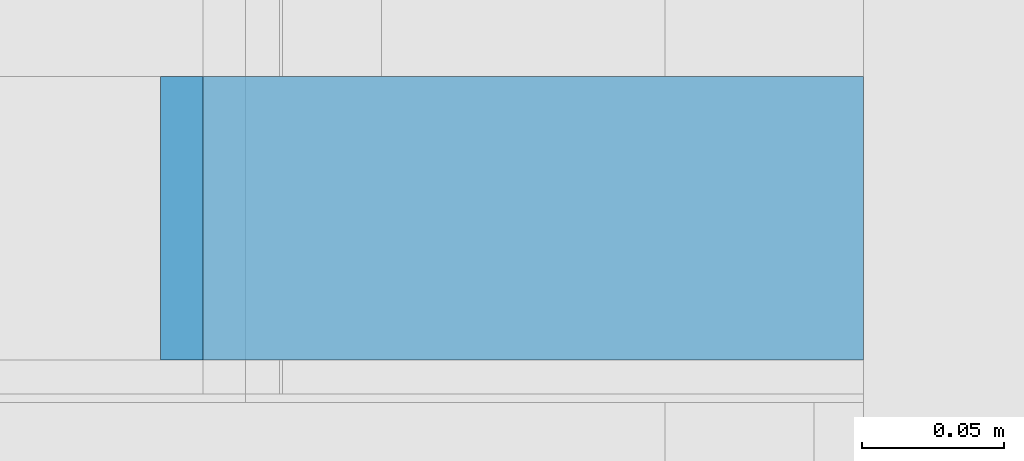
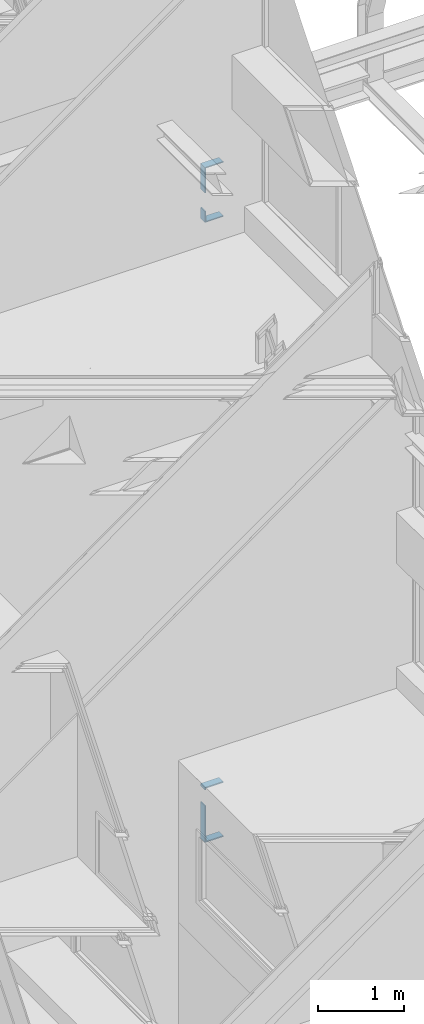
# One storey, part 236 of 583: 8 building element parts, 6 elements without a shape of their own.
"""IFC2X3 building model written with IfcOpenShell, lengths in metres."""

from ifc_helpers import new_model, entity, si_unit, converted_unit, derived_unit, money_unit, direction, frame, origin_with_axes, place, context, subcontext, project, spatial, polyline, outline, extrude, material, type_object, element, aggregate, save


model = new_model("IFC2X3")

# Units and contexts
model_context = context("Model", 3, precision=1e-05, world=origin_with_axes(), true_north=direction((0.0, 1.0)))
body_context = subcontext(model_context, "Body", "Model", "MODEL_VIEW", scale=1.0)
ifc_project = project(units=[si_unit("LENGTHUNIT", "METRE"), si_unit("AREAUNIT", "SQUARE_METRE"), si_unit("VOLUMEUNIT", "CUBIC_METRE"), si_unit("ABSORBEDDOSEUNIT", "GRAY"), si_unit("AMOUNTOFSUBSTANCEUNIT", "MOLE"), si_unit("DOSEEQUIVALENTUNIT", "SIEVERT"), si_unit("ELECTRICCAPACITANCEUNIT", "FARAD"), si_unit("ELECTRICCHARGEUNIT", "COULOMB"), si_unit("ELECTRICCONDUCTANCEUNIT", "SIEMENS"), si_unit("ELECTRICCURRENTUNIT", "AMPERE"), si_unit("ELECTRICRESISTANCEUNIT", "OHM"), si_unit("ELECTRICVOLTAGEUNIT", "VOLT"), si_unit("ENERGYUNIT", "JOULE"), si_unit("FORCEUNIT", "NEWTON"), si_unit("FREQUENCYUNIT", "HERTZ"), si_unit("ILLUMINANCEUNIT", "LUX"), si_unit("INDUCTANCEUNIT", "HENRY"), si_unit("LUMINOUSFLUXUNIT", "LUMEN"), si_unit("LUMINOUSINTENSITYUNIT", "CANDELA"), si_unit("MAGNETICFLUXDENSITYUNIT", "TESLA"), si_unit("MAGNETICFLUXUNIT", "WEBER"), si_unit("MASSUNIT", "GRAM"), converted_unit("PLANEANGLEUNIT", "degree", entity("IfcReal", 0.0174532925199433), si_unit("PLANEANGLEUNIT", "RADIAN"), dimensions=[0, 0, 0, 0, 0, 0, 0]), si_unit("POWERUNIT", "WATT"), si_unit("PRESSUREUNIT", "PASCAL"), si_unit("RADIOACTIVITYUNIT", "BECQUEREL"), si_unit("SOLIDANGLEUNIT", "STERADIAN"), si_unit("THERMODYNAMICTEMPERATUREUNIT", "KELVIN"), si_unit("TIMEUNIT", "SECOND"), derived_unit("ACCELERATIONUNIT", [(si_unit("LENGTHUNIT", "METRE"), 1), (si_unit("TIMEUNIT", "SECOND"), -2)]), derived_unit("ANGULARVELOCITYUNIT", [(converted_unit("PLANEANGLEUNIT", "degree", entity("IfcReal", 0.0174532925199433), si_unit("PLANEANGLEUNIT", "RADIAN"), dimensions=[0, 0, 0, 0, 0, 0, 0]), 1), (si_unit("TIMEUNIT", "SECOND"), -1)]), derived_unit("CURVATUREUNIT", [(converted_unit("PLANEANGLEUNIT", "degree", entity("IfcReal", 0.0174532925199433), si_unit("PLANEANGLEUNIT", "RADIAN"), dimensions=[0, 0, 0, 0, 0, 0, 0]), 1), (si_unit("LENGTHUNIT", "METRE"), -1)]), derived_unit("DYNAMICVISCOSITYUNIT", [(si_unit("PRESSUREUNIT", "PASCAL"), 1), (si_unit("TIMEUNIT", "SECOND"), 1)]), derived_unit("HEATFLUXDENSITYUNIT", [(si_unit("POWERUNIT", "WATT"), 1), (si_unit("LENGTHUNIT", "METRE"), -2)]), derived_unit("HEATINGVALUEUNIT", [(si_unit("ENERGYUNIT", "JOULE"), 1), (si_unit("MASSUNIT", "GRAM"), -1)]), derived_unit("INTEGERCOUNTRATEUNIT", [(si_unit("TIMEUNIT", "SECOND"), -1)]), derived_unit("IONCONCENTRATIONUNIT", [(si_unit("MASSUNIT", "GRAM"), 1), (si_unit("VOLUMEUNIT", "CUBIC_METRE"), -1)]), derived_unit("ISOTHERMALMOISTURECAPACITYUNIT", [(si_unit("VOLUMEUNIT", "CUBIC_METRE"), 1), (si_unit("MASSUNIT", "GRAM"), -1)]), derived_unit("KINEMATICVISCOSITYUNIT", [(si_unit("AREAUNIT", "SQUARE_METRE"), 1), (si_unit("TIMEUNIT", "SECOND"), -1)]), derived_unit("LINEARFORCEUNIT", [(si_unit("FORCEUNIT", "NEWTON"), 1), (si_unit("LENGTHUNIT", "METRE"), -1)]), derived_unit("LINEARMOMENTUNIT", [(si_unit("FORCEUNIT", "NEWTON"), 1), (si_unit("LENGTHUNIT", "METRE"), -1)]), derived_unit("LINEARSTIFFNESSUNIT", [(si_unit("FORCEUNIT", "NEWTON"), 1), (si_unit("LENGTHUNIT", "METRE"), -1)]), derived_unit("LINEARVELOCITYUNIT", [(si_unit("LENGTHUNIT", "METRE"), 1), (si_unit("TIMEUNIT", "SECOND"), -1)]), derived_unit("LUMINOUSINTENSITYDISTRIBUTIONUNIT", [(si_unit("LUMINOUSINTENSITYUNIT", "CANDELA"), 1), (si_unit("LUMINOUSFLUXUNIT", "LUMEN"), -1)]), derived_unit("MASSDENSITYUNIT", [(si_unit("MASSUNIT", "GRAM"), 1), (si_unit("VOLUMEUNIT", "CUBIC_METRE"), -1)]), derived_unit("MASSFLOWRATEUNIT", [(si_unit("MASSUNIT", "GRAM"), 1), (si_unit("TIMEUNIT", "SECOND"), -1)]), derived_unit("MASSPERLENGTHUNIT", [(si_unit("MASSUNIT", "GRAM"), 1), (si_unit("LENGTHUNIT", "METRE"), -1)]), derived_unit("MODULUSOFELASTICITYUNIT", [(si_unit("FORCEUNIT", "NEWTON"), 1), (si_unit("AREAUNIT", "SQUARE_METRE"), -1)]), derived_unit("MODULUSOFLINEARSUBGRADEREACTIONUNIT", [(si_unit("FORCEUNIT", "NEWTON"), 1), (si_unit("LENGTHUNIT", "METRE"), -2)]), derived_unit("MODULUSOFROTATIONALSUBGRADEREACTIONUNIT", [(si_unit("FORCEUNIT", "NEWTON"), 1), (si_unit("LENGTHUNIT", "METRE"), 1)]), derived_unit("MODULUSOFSUBGRADEREACTIONUNIT", [(si_unit("FORCEUNIT", "NEWTON"), 1), (si_unit("VOLUMEUNIT", "CUBIC_METRE"), -1)]), derived_unit("MOISTUREDIFFUSIVITYUNIT", [(si_unit("VOLUMEUNIT", "CUBIC_METRE"), 1), (si_unit("TIMEUNIT", "SECOND"), -1)]), derived_unit("MOLECULARWEIGHTUNIT", [(si_unit("MASSUNIT", "GRAM"), 1), (si_unit("AMOUNTOFSUBSTANCEUNIT", "MOLE"), -1)]), derived_unit("PLANARFORCEUNIT", [(si_unit("FORCEUNIT", "NEWTON"), 1), (si_unit("LENGTHUNIT", "METRE"), -2)]), derived_unit("ROTATIONALFREQUENCYUNIT", [(si_unit("TIMEUNIT", "SECOND"), -1)]), derived_unit("ROTATIONALMASSUNIT", [(si_unit("MASSUNIT", "GRAM"), 1), (si_unit("LENGTHUNIT", "METRE"), 2)]), derived_unit("ROTATIONALSTIFFNESSUNIT", [(si_unit("FORCEUNIT", "NEWTON"), 1), (si_unit("LENGTHUNIT", "METRE"), 1), (converted_unit("PLANEANGLEUNIT", "degree", entity("IfcReal", 0.0174532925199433), si_unit("PLANEANGLEUNIT", "RADIAN"), dimensions=[0, 0, 0, 0, 0, 0, 0]), -1)]), derived_unit("SECTIONAREAINTEGRALUNIT", [(si_unit("LENGTHUNIT", "METRE"), 5)]), derived_unit("SECTIONMODULUSUNIT", [(si_unit("LENGTHUNIT", "METRE"), 3)]), derived_unit("SHEARMODULUSUNIT", [(si_unit("FORCEUNIT", "NEWTON"), 1), (si_unit("AREAUNIT", "SQUARE_METRE"), -1)]), derived_unit("SOUNDPOWERUNIT", [(si_unit("ENERGYUNIT", "JOULE"), 1), (si_unit("TIMEUNIT", "SECOND"), -1)]), derived_unit("SPECIFICHEATCAPACITYUNIT", [(si_unit("FORCEUNIT", "NEWTON"), 1), (si_unit("MASSUNIT", "GRAM"), -1), (si_unit("THERMODYNAMICTEMPERATUREUNIT", "KELVIN"), -1)]), derived_unit("TEMPERATUREGRADIENTUNIT", [(si_unit("THERMODYNAMICTEMPERATUREUNIT", "KELVIN"), 1), (si_unit("LENGTHUNIT", "METRE"), -1)]), derived_unit("THERMALADMITTANCEUNIT", [(si_unit("POWERUNIT", "WATT"), 1), (si_unit("AREAUNIT", "SQUARE_METRE"), -1), (si_unit("THERMODYNAMICTEMPERATUREUNIT", "KELVIN"), -1)]), derived_unit("THERMALCONDUCTANCEUNIT", [(si_unit("POWERUNIT", "WATT"), 1), (si_unit("LENGTHUNIT", "METRE"), -1), (si_unit("THERMODYNAMICTEMPERATUREUNIT", "KELVIN"), -1)]), derived_unit("THERMALEXPANSIONCOEFFICIENTUNIT", [(si_unit("THERMODYNAMICTEMPERATUREUNIT", "KELVIN"), -1)]), derived_unit("THERMALRESISTANCEUNIT", [(si_unit("AREAUNIT", "SQUARE_METRE"), 1), (si_unit("POWERUNIT", "WATT"), -1)]), derived_unit("THERMALTRANSMITTANCEUNIT", [(si_unit("POWERUNIT", "WATT"), 1), (si_unit("AREAUNIT", "SQUARE_METRE"), -1), (si_unit("THERMODYNAMICTEMPERATUREUNIT", "KELVIN"), -1)]), derived_unit("TORQUEUNIT", [(si_unit("FORCEUNIT", "NEWTON"), 1), (si_unit("LENGTHUNIT", "METRE"), 1)]), derived_unit("VAPORPERMEABILITYUNIT", [(si_unit("MASSUNIT", "GRAM"), 1), (si_unit("TIMEUNIT", "SECOND"), -1)]), derived_unit("VOLUMETRICFLOWRATEUNIT", [(si_unit("VOLUMEUNIT", "CUBIC_METRE"), 1), (si_unit("TIMEUNIT", "SECOND"), -1)]), derived_unit("WARPINGCONSTANTUNIT", [(si_unit("LENGTHUNIT", "METRE"), 6)]), derived_unit("WARPINGMOMENTUNIT", [(si_unit("FORCEUNIT", "NEWTON"), 1), (si_unit("LENGTHUNIT", "METRE"), 2)]), money_unit("GBP")], contexts=[model_context])

# Site, building, storey
site_placement = place(None, origin_with_axes())
site = spatial("IfcSite", under=ifc_project, at=site_placement, Name="Site", CompositionType="ELEMENT")
building_placement = place(site_placement, origin_with_axes())
building = spatial("IfcBuilding", under=site, at=building_placement, Name="Building01", CompositionType="ELEMENT")
storey_placement = place(building_placement, frame((0.0, 0.0, 20.78), z_axis=(0.0, 0.0, 1.0), x_axis=(1.0, 0.0, 0.0)))
storey = spatial("IfcBuildingStorey", under=building, at=storey_placement, Name="RL", CompositionType="ELEMENT", Elevation=20.78)

# Wall, building element part
wall_type = type_object("IfcWallType", Name="SHE_A-Walls_Type06f_ExternalWallInsulation_48+15mm", PredefinedType="NOTDEFINED")
wall_1_placement = place(storey_placement, frame((14.8, 12.13, -14.157124), z_axis=(0.0, 1.0, 0.0), x_axis=(-1.0, 0.0, 0.0)))
wall_1 = element("IfcWall", 1, at=wall_1_placement, inside=storey, type_object=wall_type, Name="6F", ObjectType="SHE_A-Walls_Type06f_ExternalWallInsulation_48+15mm")
ifc_material = material(Name="A_BSUK_Walls_Timber")
building_element_part_1_placement = place(wall_1_placement, origin_with_axes())
building_element_part_1 = element("IfcBuildingElementPart", 2, at=building_element_part_1_placement, material=ifc_material, Name="2", context=body_context, shape_type="SweptSolid", body=[
    extrude(outline(polyline([(0.233, -0.063), (0.0, -0.063), (0.0, -0.078), (0.248, -0.078), (0.233, -0.063)])), frame((0.0, 0.0, 0.015), z_axis=(0.0, 0.0, 1.0), x_axis=(1.0, 0.0, 0.0)), (0.0, 0.0, 1.0), 0.1),
])
aggregate(wall_1, [building_element_part_1])

wall_2_placement = place(storey_placement, frame((14.8, 12.13, -13.533), z_axis=(0.0, 1.0, 0.0), x_axis=(-1.0, 0.0, 0.0)))
wall_2 = element("IfcWall", 3, at=wall_2_placement, inside=storey, type_object=wall_type, Name="6F", ObjectType="SHE_A-Walls_Type06f_ExternalWallInsulation_48+15mm")
building_element_part_2_placement = place(wall_2_placement, origin_with_axes())
building_element_part_2 = element("IfcBuildingElementPart", 4, at=building_element_part_2_placement, material=ifc_material, Name="2", context=body_context, shape_type="SweptSolid", body=[
    extrude(outline(polyline([(0.248, 0.078), (0.0, 0.078), (0.0, 0.063), (0.233, 0.063), (0.248, 0.078)])), frame((0.0, 0.0, 0.015), z_axis=(0.0, 0.0, 1.0), x_axis=(1.0, 0.0, 0.0)), (0.0, 0.0, 1.0), 0.1),
])
aggregate(wall_2, [building_element_part_2])

wall_3_placement = place(storey_placement, frame((14.8, 12.13, -5.397), z_axis=(0.0, 1.0, 0.0), x_axis=(-1.0, 0.0, 0.0)))
wall_3 = element("IfcWall", 5, at=wall_3_placement, inside=storey, type_object=wall_type, Name="6F", ObjectType="SHE_A-Walls_Type06f_ExternalWallInsulation_48+15mm")
building_element_part_3_placement = place(wall_3_placement, origin_with_axes())
building_element_part_3 = element("IfcBuildingElementPart", 6, at=building_element_part_3_placement, material=ifc_material, Name="2", context=body_context, shape_type="SweptSolid", body=[
    extrude(outline(polyline([(0.233, -0.063), (0.0, -0.063), (0.0, -0.078), (0.248, -0.078), (0.233, -0.063)])), frame((0.0, 0.0, 0.015), z_axis=(0.0, 0.0, 1.0), x_axis=(1.0, 0.0, 0.0)), (0.0, 0.0, 1.0), 0.1),
])
aggregate(wall_3, [building_element_part_3])

wall_4_placement = place(storey_placement, frame((14.8, 12.13, -4.772876), z_axis=(0.0, 1.0, 0.0), x_axis=(-1.0, 0.0, 0.0)))
wall_4 = element("IfcWall", 7, at=wall_4_placement, inside=storey, type_object=wall_type, Name="6F", ObjectType="SHE_A-Walls_Type06f_ExternalWallInsulation_48+15mm")
building_element_part_4_placement = place(wall_4_placement, origin_with_axes())
building_element_part_4 = element("IfcBuildingElementPart", 8, at=building_element_part_4_placement, material=ifc_material, Name="2", context=body_context, shape_type="SweptSolid", body=[
    extrude(outline(polyline([(0.248, 0.078), (0.0, 0.078), (0.0, 0.063), (0.233, 0.063), (0.248, 0.078)])), frame((0.0, 0.0, 0.015), z_axis=(0.0, 0.0, 1.0), x_axis=(1.0, 0.0, 0.0)), (0.0, 0.0, 1.0), 0.1),
])
aggregate(wall_4, [building_element_part_4])

# Wall, building element parts
wall_5_placement = place(storey_placement, frame((14.63, 12.13, -13.497), z_axis=(0.0, 1.0, 0.0), x_axis=(0.0, 0.0, -1.0)))
wall_5 = element("IfcWall", 9, at=wall_5_placement, inside=storey, type_object=wall_type, Name="6F", ObjectType="SHE_A-Walls_Type06f_ExternalWallInsulation_48+15mm")
placement_1 = place(wall_5_placement, origin_with_axes())
building_element_part_5 = element("IfcBuildingElementPart", 10, at=placement_1, material=ifc_material, Name="2", context=body_context, shape_type="SweptSolid", body=[
    extrude(outline(polyline([(-0.042, 0.078), (-0.027, 0.063), (-0.006669, 0.063), (-0.006669, 0.078), (-0.042, 0.078)])), frame((0.0, 0.0, 0.015), z_axis=(0.0, 0.0, 1.0), x_axis=(1.0, 0.0, 0.0)), (0.0, 0.0, 1.0), 0.1),
])
building_element_part_6 = element("IfcBuildingElementPart", 11, at=placement_1, material=ifc_material, Name="4", context=body_context, shape_type="SweptSolid", body=[
    extrude(outline(polyline([(0.738124, 0.078), (0.218331, 0.078), (0.218331, 0.063), (0.723124, 0.063), (0.738124, 0.078)])), frame((0.0, 0.0, 0.015), z_axis=(0.0, 0.0, 1.0), x_axis=(1.0, 0.0, 0.0)), (0.0, 0.0, 1.0), 0.1),
])
aggregate(wall_5, [building_element_part_5, building_element_part_6])

wall_6_placement = place(storey_placement, frame((14.63, 12.13, -4.736876), z_axis=(0.0, 1.0, 0.0), x_axis=(0.0, 0.0, -1.0)))
wall_6 = element("IfcWall", 12, at=wall_6_placement, inside=storey, type_object=wall_type, Name="6F", ObjectType="SHE_A-Walls_Type06f_ExternalWallInsulation_48+15mm")
placement_2 = place(wall_6_placement, origin_with_axes())
building_element_part_7 = element("IfcBuildingElementPart", 13, at=placement_2, material=ifc_material, Name="2", context=body_context, shape_type="SweptSolid", body=[
    extrude(outline(polyline([(-0.042, 0.078), (-0.027, 0.063), (0.319992, 0.063), (0.319992, 0.078), (-0.042, 0.078)])), frame((0.0, 0.0, 0.015), z_axis=(0.0, 0.0, 1.0), x_axis=(1.0, 0.0, 0.0)), (0.0, 0.0, 1.0), 0.1),
])
building_element_part_8 = element("IfcBuildingElementPart", 14, at=placement_2, material=ifc_material, Name="4", context=body_context, shape_type="SweptSolid", body=[
    extrude(outline(polyline([(0.738124, 0.078), (0.580454, 0.078), (0.580454, 0.063), (0.723124, 0.063), (0.738124, 0.078)])), frame((0.0, 0.0, 0.015), z_axis=(0.0, 0.0, 1.0), x_axis=(1.0, 0.0, 0.0)), (0.0, 0.0, 1.0), 0.1),
])
aggregate(wall_6, [building_element_part_7, building_element_part_8])

save(model, "model.ifc")
